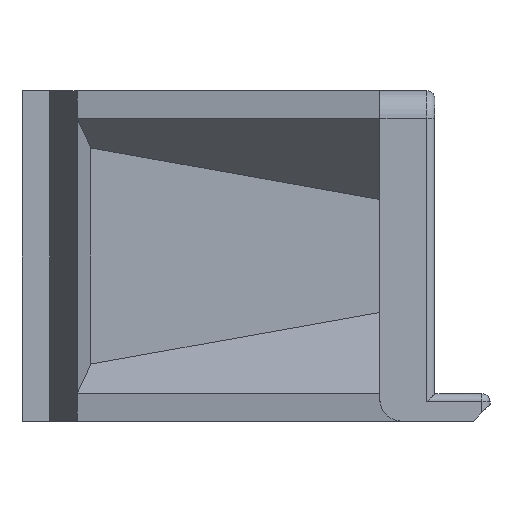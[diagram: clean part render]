
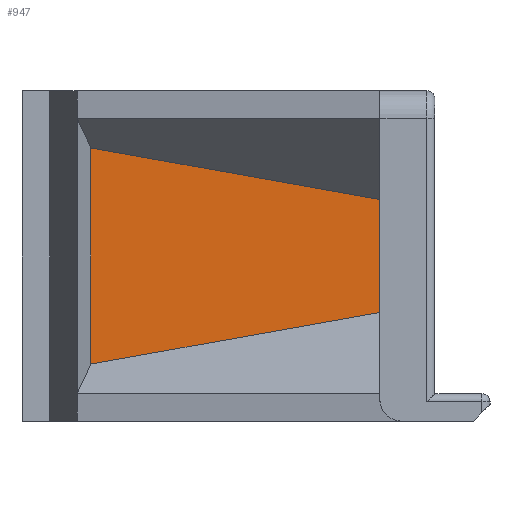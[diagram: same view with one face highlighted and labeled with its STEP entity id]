
A CAD part, front view. The second image highlights one B-rep face of the part: STEP entity #947.
In plain terms, the highlighted planar face has unit normal (0, -1, 0).
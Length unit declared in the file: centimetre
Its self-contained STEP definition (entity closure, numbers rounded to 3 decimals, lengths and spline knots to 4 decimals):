
#46=PLANE($,#1020);
#98=FACE_OUTER_BOUND($,#152,.T.);
#152=EDGE_LOOP($,(#810,#811,#812,#813));
#207=LINE($,#1354,#324);
#227=LINE($,#1396,#344);
#270=LINE($,#1509,#387);
#272=LINE($,#1514,#389);
#324=VECTOR($,#1076,5.8413);
#344=VECTOR($,#1110,1.8695);
#387=VECTOR($,#1229,5.8413);
#389=VECTOR($,#1237,3.9267);
#438=VERTEX_POINT($,#1346);
#441=VERTEX_POINT($,#1352);
#456=VERTEX_POINT($,#1394);
#488=VERTEX_POINT($,#1507);
#527=EDGE_CURVE($,#441,#438,#207,.F.);
#547=EDGE_CURVE($,#441,#456,#227,.T.);
#605=EDGE_CURVE($,#456,#488,#270,.T.);
#607=EDGE_CURVE($,#438,#488,#272,.T.);
#810=ORIENTED_EDGE($,*,*,#607,.F.);
#811=ORIENTED_EDGE($,*,*,#527,.F.);
#812=ORIENTED_EDGE($,*,*,#547,.T.);
#813=ORIENTED_EDGE($,*,*,#605,.T.);
#947=ADVANCED_FACE($,(#98),#46,.T.);
#1020=AXIS2_PLACEMENT_3D($,#1513,#1235,#1236);
#1076=DIRECTION($,(0.984,0.,0.176));
#1110=DIRECTION($,(0.,0.,1.));
#1229=DIRECTION($,(-0.984,0.,0.176));
#1235=DIRECTION('center_axis',(0.,-1.,0.));
#1236=DIRECTION('ref_axis',(0.,0.,1.));
#1237=DIRECTION($,(0.,0.,1.));
#1346=CARTESIAN_POINT('',(-13.5,11.5,1.0367));
#1352=CARTESIAN_POINT('',(-7.75,11.5,2.0652));
#1354=CARTESIAN_POINT($,(-7.7604,11.5,2.0634));
#1394=CARTESIAN_POINT('',(-7.75,11.5,3.9348));
#1396=CARTESIAN_POINT($,(-7.75,11.5,3.375));
#1507=CARTESIAN_POINT('',(-13.5,11.5,4.9633));
#1509=CARTESIAN_POINT($,(-7.2874,11.5,3.852));
#1513=CARTESIAN_POINT('Origin',(-7.25,11.5,0.5));
#1514=CARTESIAN_POINT($,(-13.5,11.5,0.25));
